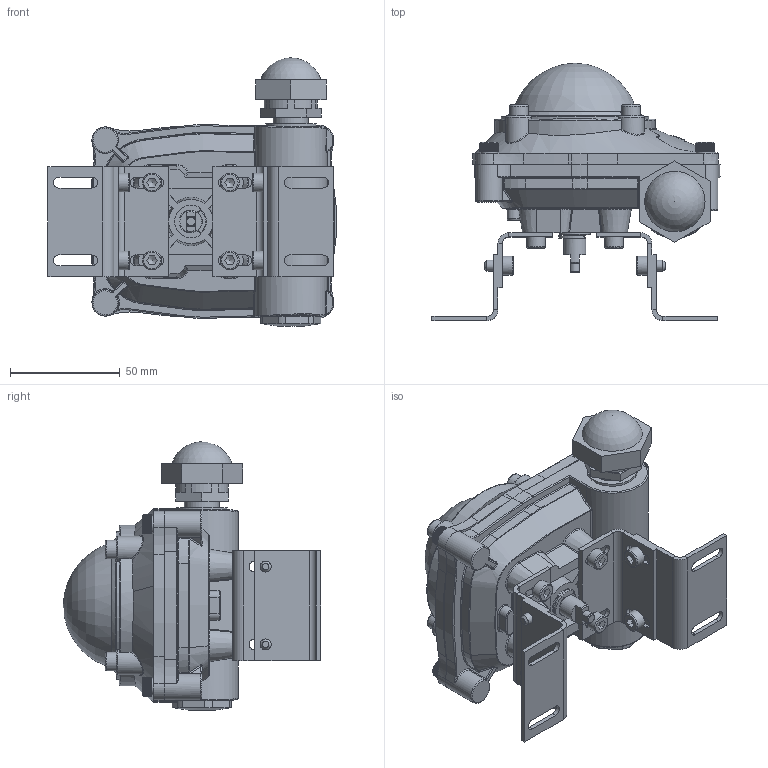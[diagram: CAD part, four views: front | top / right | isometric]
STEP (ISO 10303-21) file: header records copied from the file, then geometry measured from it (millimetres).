
FILE_DESCRIPTION(('STEP AP242'), '1');
FILE_NAME('APL-210N 岭铌 觐眦邂 恹觌囹咫彘 DN.ru', '', ('UNSPECIFIED'), ('UNSPECIFIED'), 'C3D Converter', 'C3D Toolkit', '');
FILE_SCHEMA(('AP242_MANAGED_MODEL_BASED_3D_ENGINEERING_MIM_LF { 1 0 10303 442 1 1 4 }'));
Length unit declared in the file: millimetre
Products named in the file (1): APL-210N
Bounding box: 130.95 x 117 x 121.98 mm (x, y, z)
Volume: 307825.7 mm3; surface area: 123566.7 mm2
Topology: 12 solids, 14 shells, 3068 faces, 8531 edges, 5505 vertices
Faces by surface type: plane 1631, cylinder 644, bspline 374, cone 222, torus 125, sphere 44, extrusion 28
Full cylindrical faces by diameter (mm): 3.3 x4, 4 x6, 4.2 x1, 4.3 x1, 4.4 x4, 4.7 x4, 4.8 x1, 5 x84, 7 x1, 7.8 x4, 8 x3, 8.5 x12, 8.6 x1, 9.5 x2, 9.6 x1, 10 x1, 10.5 x2, 14 x2, 14.5 x1, 16 x1, 16.5 x1, 17 x1, 19 x2, 22.9 x1, 46 x1, 58 x1, 67 x1, 68 x1
Entity records: 215957 total; most frequent: CARTESIAN_POINT 143883, ORIENTED_EDGE 16176, DIRECTION 12608, EDGE_CURVE 8088, VERTEX_POINT 5476, AXIS2_PLACEMENT_3D 4399, VECTOR 3810, LINE 3782
